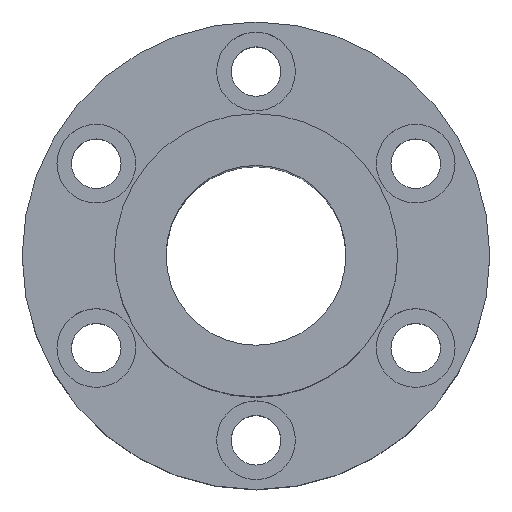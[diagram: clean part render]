
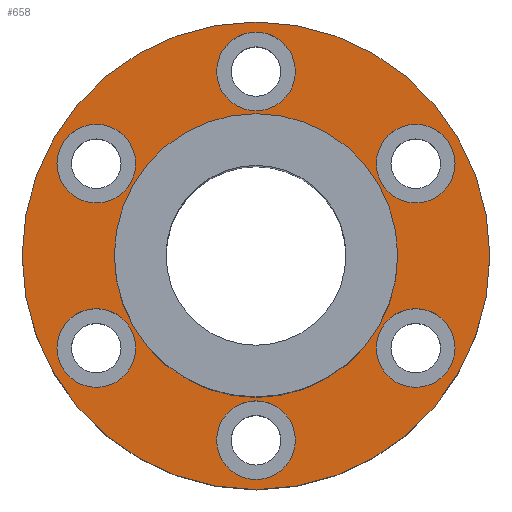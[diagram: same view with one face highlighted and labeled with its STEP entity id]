
A CAD part, top view. The second image highlights one B-rep face of the part: STEP entity #658.
In plain terms, the highlighted planar face has unit normal (0, 0, 1).
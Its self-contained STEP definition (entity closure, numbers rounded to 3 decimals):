
#1=CARTESIAN_POINT('',(0.,0.,22.5));
#2=DIRECTION('',(0.,0.,1.));
#3=DIRECTION('',(1.,0.,0.));
#4=AXIS2_PLACEMENT_3D('',#1,#2,#3);
#6=CARTESIAN_POINT('',(0.,0.,22.5));
#7=DIRECTION('',(0.,0.,1.));
#8=DIRECTION('',(-1.,0.,0.));
#9=AXIS2_PLACEMENT_3D('',#6,#7,#8);
#11=CARTESIAN_POINT('',(35.507,-20.5,22.5));
#12=DIRECTION('',(0.,0.,-1.));
#13=DIRECTION('',(-0.5,-0.866,0.));
#14=AXIS2_PLACEMENT_3D('',#11,#12,#13);
#16=CARTESIAN_POINT('',(35.507,-20.5,22.5));
#17=DIRECTION('',(0.,0.,-1.));
#18=DIRECTION('',(0.5,0.866,0.));
#19=AXIS2_PLACEMENT_3D('',#16,#17,#18);
#21=CARTESIAN_POINT('',(-35.507,-20.5,22.5));
#22=DIRECTION('',(0.,0.,-1.));
#23=DIRECTION('',(-0.5,0.866,0.));
#24=AXIS2_PLACEMENT_3D('',#21,#22,#23);
#26=CARTESIAN_POINT('',(-35.507,-20.5,22.5));
#27=DIRECTION('',(0.,0.,-1.));
#28=DIRECTION('',(0.5,-0.866,0.));
#29=AXIS2_PLACEMENT_3D('',#26,#27,#28);
#31=CARTESIAN_POINT('',(0.,41.,22.5));
#32=DIRECTION('',(0.,0.,-1.));
#33=DIRECTION('',(1.,0.,0.));
#34=AXIS2_PLACEMENT_3D('',#31,#32,#33);
#36=CARTESIAN_POINT('',(0.,41.,22.5));
#37=DIRECTION('',(0.,0.,-1.));
#38=DIRECTION('',(-1.,0.,0.));
#39=AXIS2_PLACEMENT_3D('',#36,#37,#38);
#41=CARTESIAN_POINT('',(0.,0.,22.5));
#42=DIRECTION('',(0.,0.,-1.));
#43=DIRECTION('',(1.,0.,0.));
#44=AXIS2_PLACEMENT_3D('',#41,#42,#43);
#46=CARTESIAN_POINT('',(0.,0.,22.5));
#47=DIRECTION('',(0.,0.,-1.));
#48=DIRECTION('',(-1.,0.,0.));
#49=AXIS2_PLACEMENT_3D('',#46,#47,#48);
#51=CARTESIAN_POINT('',(-35.507,20.5,22.5));
#52=DIRECTION('',(0.,0.,-1.));
#53=DIRECTION('',(0.5,0.866,0.));
#54=AXIS2_PLACEMENT_3D('',#51,#52,#53);
#56=CARTESIAN_POINT('',(-35.507,20.5,22.5));
#57=DIRECTION('',(0.,0.,-1.));
#58=DIRECTION('',(-0.5,-0.866,0.));
#59=AXIS2_PLACEMENT_3D('',#56,#57,#58);
#61=CARTESIAN_POINT('',(0.,-41.,22.5));
#62=DIRECTION('',(0.,0.,-1.));
#63=DIRECTION('',(-1.,0.,0.));
#64=AXIS2_PLACEMENT_3D('',#61,#62,#63);
#66=CARTESIAN_POINT('',(0.,-41.,22.5));
#67=DIRECTION('',(0.,0.,-1.));
#68=DIRECTION('',(1.,0.,0.));
#69=AXIS2_PLACEMENT_3D('',#66,#67,#68);
#71=CARTESIAN_POINT('',(35.507,20.5,22.5));
#72=DIRECTION('',(0.,0.,-1.));
#73=DIRECTION('',(0.5,-0.866,0.));
#74=AXIS2_PLACEMENT_3D('',#71,#72,#73);
#76=CARTESIAN_POINT('',(35.507,20.5,22.5));
#77=DIRECTION('',(0.,0.,-1.));
#78=DIRECTION('',(-0.5,0.866,0.));
#79=AXIS2_PLACEMENT_3D('',#76,#77,#78);
#533=CARTESIAN_POINT('',(-52.,0.,22.5));
#535=VERTEX_POINT('',#533);
#537=CARTESIAN_POINT('',(52.,0.,22.5));
#539=VERTEX_POINT('',#537);
#541=CARTESIAN_POINT('',(8.75,41.,22.5));
#543=VERTEX_POINT('',#541);
#545=CARTESIAN_POINT('',(-8.75,41.,22.5));
#547=VERTEX_POINT('',#545);
#549=CARTESIAN_POINT('',(-31.132,28.078,22.5));
#551=VERTEX_POINT('',#549);
#553=CARTESIAN_POINT('',(-39.882,12.922,22.5));
#555=VERTEX_POINT('',#553);
#557=CARTESIAN_POINT('',(-39.882,-12.922,22.5));
#559=VERTEX_POINT('',#557);
#561=CARTESIAN_POINT('',(-31.132,-28.078,22.5));
#563=VERTEX_POINT('',#561);
#565=CARTESIAN_POINT('',(-8.75,-41.,22.5));
#567=VERTEX_POINT('',#565);
#569=CARTESIAN_POINT('',(8.75,-41.,22.5));
#571=VERTEX_POINT('',#569);
#573=CARTESIAN_POINT('',(31.132,-28.078,22.5));
#575=VERTEX_POINT('',#573);
#577=CARTESIAN_POINT('',(39.882,-12.922,22.5));
#579=VERTEX_POINT('',#577);
#581=CARTESIAN_POINT('',(39.882,12.922,22.5));
#583=VERTEX_POINT('',#581);
#585=CARTESIAN_POINT('',(31.132,28.078,22.5));
#587=VERTEX_POINT('',#585);
#598=CARTESIAN_POINT('',(31.5,0.,22.5));
#600=VERTEX_POINT('',#598);
#602=CARTESIAN_POINT('',(-31.5,0.,22.5));
#604=VERTEX_POINT('',#602);
#605=CARTESIAN_POINT('',(0.,0.,22.5));
#606=DIRECTION('',(0.,0.,1.));
#607=DIRECTION('',(1.,0.,0.));
#608=AXIS2_PLACEMENT_3D('',#605,#606,#607);
#609=PLANE('',#608);
#611=ORIENTED_EDGE('',*,*,#610,.F.);
#613=ORIENTED_EDGE('',*,*,#612,.F.);
#614=EDGE_LOOP('',(#611,#613));
#615=FACE_OUTER_BOUND('',#614,.F.);
#617=ORIENTED_EDGE('',*,*,#616,.F.);
#619=ORIENTED_EDGE('',*,*,#618,.F.);
#620=EDGE_LOOP('',(#617,#619));
#621=FACE_BOUND('',#620,.F.);
#623=ORIENTED_EDGE('',*,*,#622,.F.);
#625=ORIENTED_EDGE('',*,*,#624,.F.);
#626=EDGE_LOOP('',(#623,#625));
#627=FACE_BOUND('',#626,.F.);
#629=ORIENTED_EDGE('',*,*,#628,.F.);
#631=ORIENTED_EDGE('',*,*,#630,.F.);
#632=EDGE_LOOP('',(#629,#631));
#633=FACE_BOUND('',#632,.F.);
#635=ORIENTED_EDGE('',*,*,#634,.F.);
#637=ORIENTED_EDGE('',*,*,#636,.F.);
#638=EDGE_LOOP('',(#635,#637));
#639=FACE_BOUND('',#638,.F.);
#641=ORIENTED_EDGE('',*,*,#640,.F.);
#643=ORIENTED_EDGE('',*,*,#642,.F.);
#644=EDGE_LOOP('',(#641,#643));
#645=FACE_BOUND('',#644,.F.);
#647=ORIENTED_EDGE('',*,*,#646,.F.);
#649=ORIENTED_EDGE('',*,*,#648,.F.);
#650=EDGE_LOOP('',(#647,#649));
#651=FACE_BOUND('',#650,.F.);
#653=ORIENTED_EDGE('',*,*,#652,.F.);
#655=ORIENTED_EDGE('',*,*,#654,.F.);
#656=EDGE_LOOP('',(#653,#655));
#657=FACE_BOUND('',#656,.F.);
#658=ADVANCED_FACE('',(#615,#621,#627,#633,#639,#645,#651,#657),#609,.T.);
#5=CIRCLE('',#4,52.);
#10=CIRCLE('',#9,52.);
#15=CIRCLE('',#14,8.75);
#20=CIRCLE('',#19,8.75);
#25=CIRCLE('',#24,8.75);
#30=CIRCLE('',#29,8.75);
#35=CIRCLE('',#34,8.75);
#40=CIRCLE('',#39,8.75);
#45=CIRCLE('',#44,31.5);
#50=CIRCLE('',#49,31.5);
#55=CIRCLE('',#54,8.75);
#60=CIRCLE('',#59,8.75);
#65=CIRCLE('',#64,8.75);
#70=CIRCLE('',#69,8.75);
#75=CIRCLE('',#74,8.75);
#80=CIRCLE('',#79,8.75);
#610=EDGE_CURVE('',#539,#535,#5,.T.);
#612=EDGE_CURVE('',#535,#539,#10,.T.);
#616=EDGE_CURVE('',#575,#579,#15,.T.);
#618=EDGE_CURVE('',#579,#575,#20,.T.);
#622=EDGE_CURVE('',#559,#563,#25,.T.);
#624=EDGE_CURVE('',#563,#559,#30,.T.);
#628=EDGE_CURVE('',#543,#547,#35,.T.);
#630=EDGE_CURVE('',#547,#543,#40,.T.);
#634=EDGE_CURVE('',#600,#604,#45,.T.);
#636=EDGE_CURVE('',#604,#600,#50,.T.);
#640=EDGE_CURVE('',#551,#555,#55,.T.);
#642=EDGE_CURVE('',#555,#551,#60,.T.);
#646=EDGE_CURVE('',#567,#571,#65,.T.);
#648=EDGE_CURVE('',#571,#567,#70,.T.);
#652=EDGE_CURVE('',#583,#587,#75,.T.);
#654=EDGE_CURVE('',#587,#583,#80,.T.);
